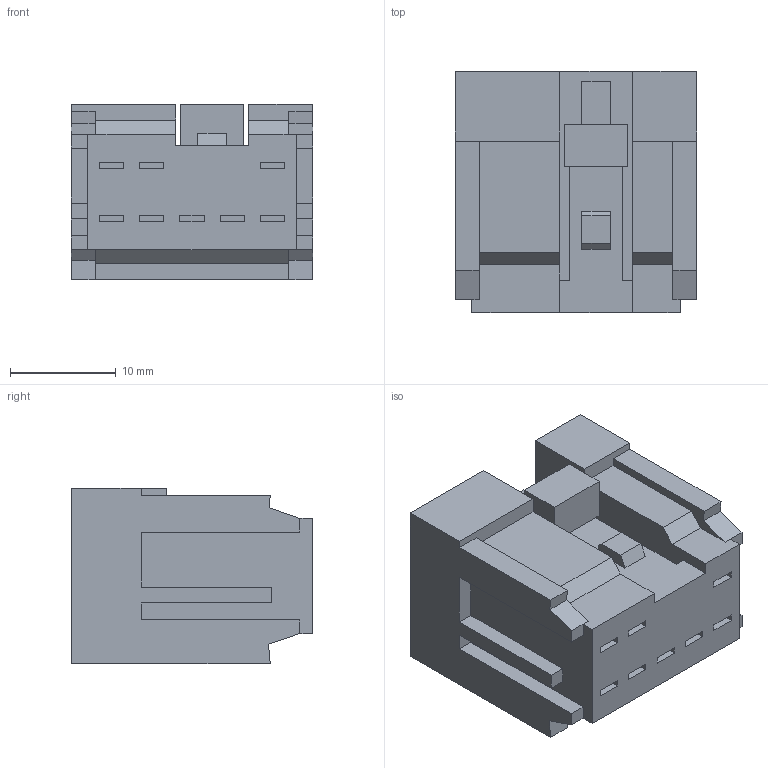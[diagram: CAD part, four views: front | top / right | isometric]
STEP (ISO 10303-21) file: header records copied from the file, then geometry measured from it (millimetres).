
FILE_DESCRIPTION(('CATIA V5 STEP','CAx-IF Rec.Pracs.--- Model Styling and Organization---1.4--- 2014-01-23'),'2;1');
FILE_NAME('\\fss02.ad.sws.co.jp\fs100016\第3設計部\共有\コネクタ第1Gr\【91】一時保管\★カタログ用参考資料\簡易３D\stp_送付用\6098-6950.stp','2024-10-07T01:14:14+00:00',('none'),('none'),'CATIA Version 5-6 Release 2018 SP4 HF21','CATIA V5 STEP AP214','none');
FILE_SCHEMA(('AUTOMOTIVE_DESIGN { 1 0 10303 214 1 1 1 1 }'));
Length unit declared in the file: millimetre
Products named in the file (1): 6098-6950
Bounding box: 22.8 x 22.8 x 16.6 mm (x, y, z)
Volume: 6285.8 mm3; surface area: 3384.5 mm2
Topology: 1 solids, 1 shells, 161 faces, 423 edges, 280 vertices
Faces by surface type: plane 161
Entity records: 4455 total; most frequent: ORIENTED_EDGE 846, CARTESIAN_POINT 781, DIRECTION 577, VECTOR 423, EDGE_CURVE 423, LINE 423, VERTEX_POINT 280, EDGE_LOOP 179
